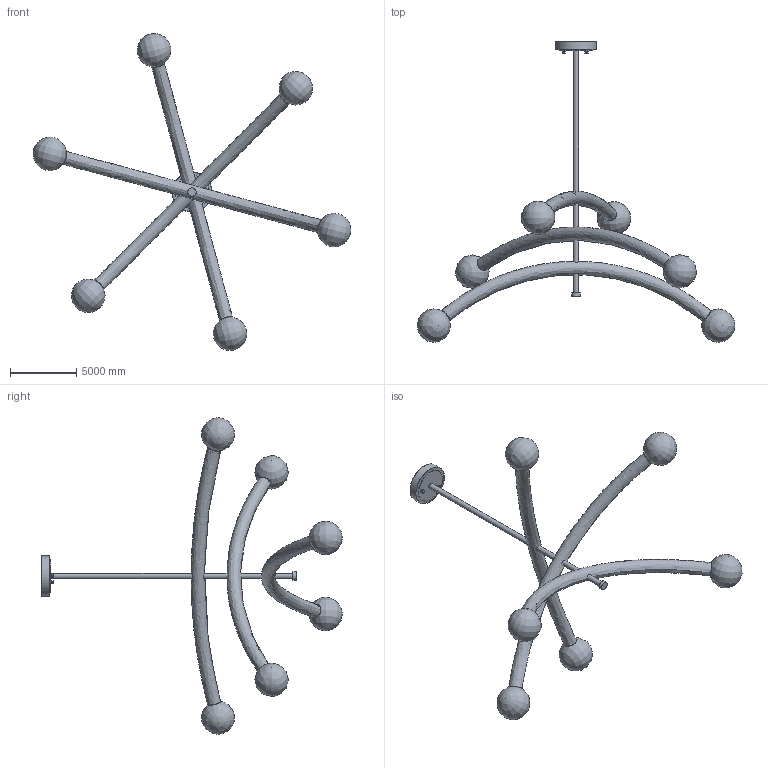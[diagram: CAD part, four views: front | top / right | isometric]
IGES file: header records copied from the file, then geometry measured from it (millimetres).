
Global section: file name: Branch Molecular Chandelier; native system: AutoCAD 2022 - 简体中文 (Simplified Chinese),62HAuto; preprocessor: desk Translation Framework DWG producer (atf_dwg_producer); organization: unknown; date: 20260401.091455; units: inch
Bounding box: 24065.54 x 22783.6 x 23995.52 mm (x, y, z)
Volume: 62120456319.6 mm3; surface area: 570369483.9 mm2
Topology: 18 solids, 18 shells, 59 faces, 112 edges, 84 vertices
Faces by surface type: bspline 59
